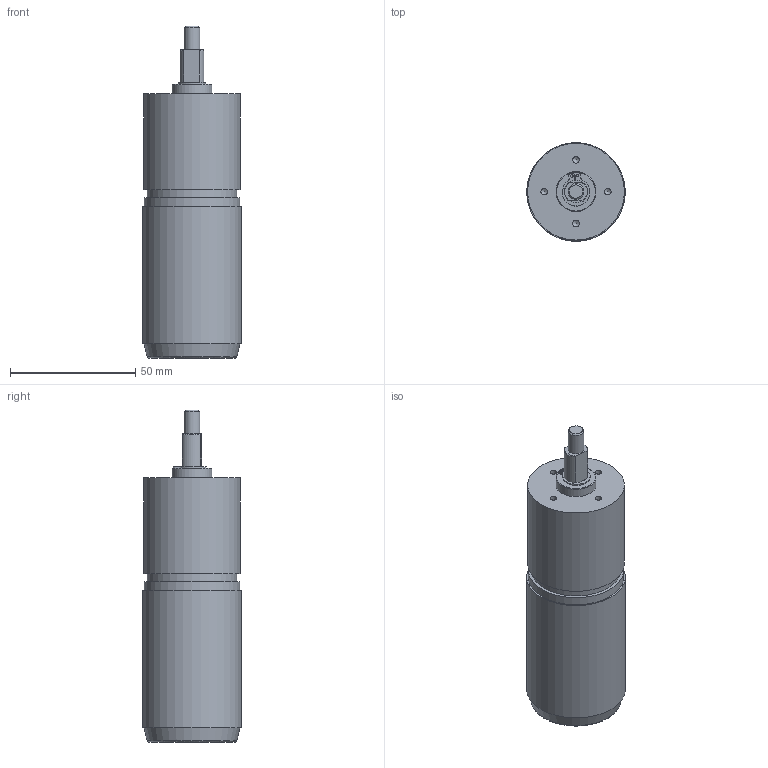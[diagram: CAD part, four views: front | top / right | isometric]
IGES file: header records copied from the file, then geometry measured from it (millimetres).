
Global section: file name: No Iges File Name specified; native system: AutoDesk Inventor R6.0; preprocessor: AutoDesk Inventor Iges Exporter R6.0; author: No Author specified; organization: No Organization specified; date: 20080121.092031; units: inch
Bounding box: 39.37 x 39.37 x 132.46 mm (x, y, z)
Surface area: 23733.6 mm2 (no closed solid volume)
Topology: 0 solids, 0 shells, 53 faces, 199 edges, 178 vertices
Faces by surface type: revolution 23, plane 22, bspline 8
